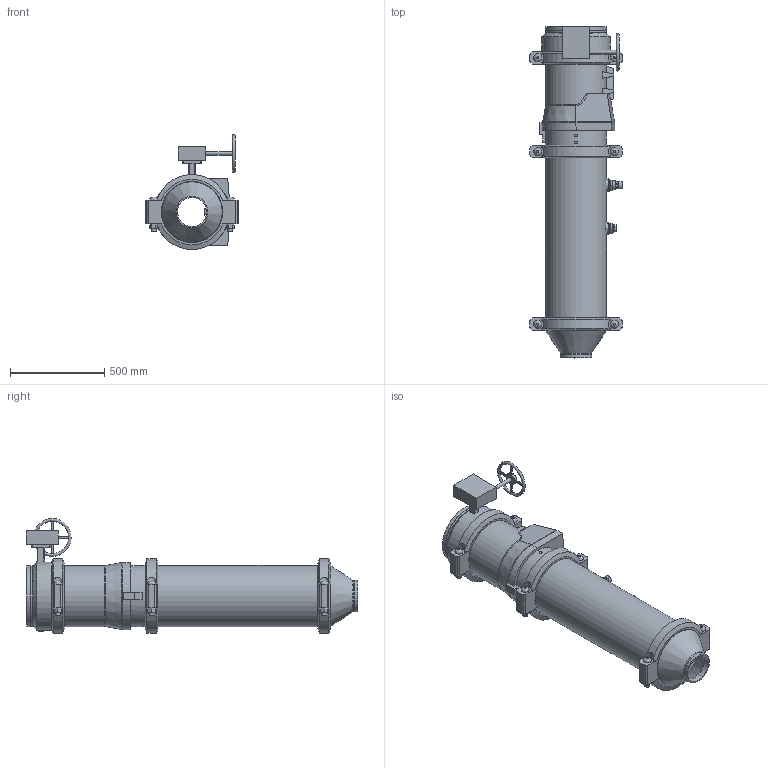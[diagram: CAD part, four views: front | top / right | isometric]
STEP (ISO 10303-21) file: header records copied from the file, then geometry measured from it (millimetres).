
FILE_DESCRIPTION(/* description */ ('VIC DVI PUMP DROP VERT S/380G (OGS)','CAx-IF Rec.Pracs.---Representation and Presentation of Product Manufacturing Information (PMI)---4.0---2014-10-13'),/* implementation_level */ '2;1');
FILE_NAME(/* name */ 'C:\Users\Public\Documents\Victaulic.Temp\A958\Victaulic_IPS_Vertical DVI_Series 380G (OGSxOGS)_12.0x06.0 (300x150).stp',/* time_stamp */ '2022-07-25T12:44:38+02:00',/* author */ ('Vjadhav'),/* organization */ ('Victaulic'),/* preprocessor_version */ 'ST-DEVELOPER v18',/* originating_system */ 'Autodesk Inventor 2020',/* authorisation */ '');
FILE_SCHEMA (('AP242_MANAGED_MODEL_BASED_3D_ENGINEERING_MIM_LF { 1 0 10303 442 1 1 4 }'));
Length unit declared in the file: inch
Products named in the file (8): 380G-12.0x06.0; 050-12.0x06.0; Pipe-12.0; 779-12.0; 923-10.0x0.75; 924-10.0x0.75; 761-12.0; 077-12.0
Assembly tree (9 placements, depth 2):
  380G-12.0x06.0
    050-12.0x06.0
    Pipe-12.0
    779-12.0
    923-10.0x0.75
    924-10.0x0.75
    761-12.0
    077-12.0  x3
Bounding box: 488.95 x 1760.22 x 609.46 mm (x, y, z)
Volume: 36395513.7 mm3; surface area: 4888074.8 mm2
Topology: 9 solids, 16 shells, 475 faces, 1189 edges, 810 vertices
Faces by surface type: plane 291, cylinder 149, cone 20, bspline 8, torus 7
Full cylindrical faces by diameter (mm): 10.922 x4, 13.716 x4, 20.066 x1, 21.336 x1, 22.86 x1, 25.4 x12, 26.67 x2, 27.432 x6, 31.75 x1, 38.608 x1, 45.974 x4, 55.626 x2, 63.079 x1, 70.104 x1, 76.2 x1, 154.051 x1, 163.957 x1, 168.275 x2, 303.225 x2, 304.8 x2, 314.96 x3, 318.287 x7, 323.85 x19, 361.95 x1
Entity records: 12059 total; most frequent: CARTESIAN_POINT 2440, DIRECTION 1959, ORIENTED_EDGE 1798, EDGE_CURVE 899, AXIS2_PLACEMENT_3D 747, VERTEX_POINT 614, LINE 465, VECTOR 465
